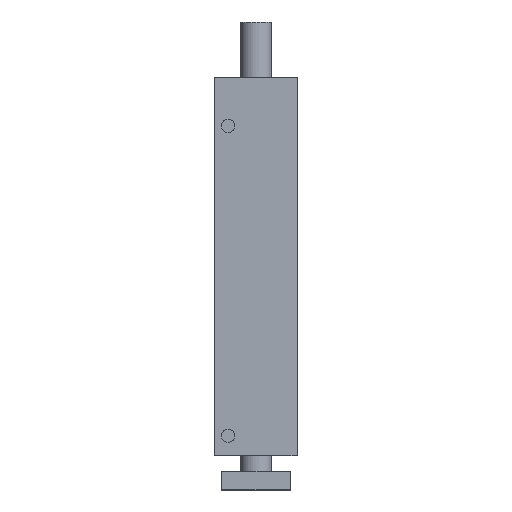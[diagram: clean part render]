
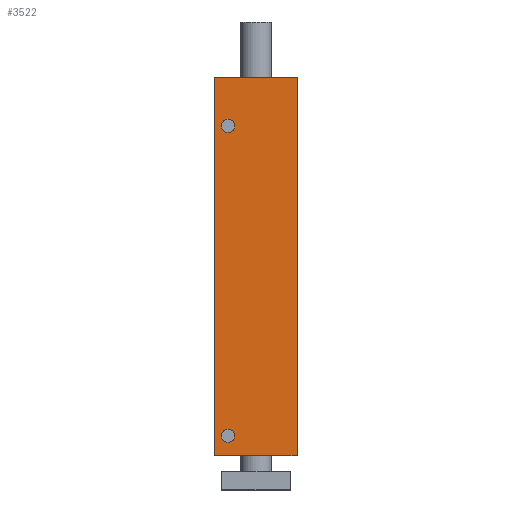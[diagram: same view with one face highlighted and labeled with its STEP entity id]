
A CAD part, front view. The second image highlights one B-rep face of the part: STEP entity #3522.
In plain terms, the highlighted planar face has unit normal (0, -1, 0).
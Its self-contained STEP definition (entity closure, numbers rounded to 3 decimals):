
#255=CARTESIAN_POINT('',(-27.0,-60.0,0.0));
#256=VERTEX_POINT('',#255);
#263=CARTESIAN_POINT('',(-27.0,-60.0,244.0));
#264=VERTEX_POINT('',#263);
#265=CARTESIAN_POINT('',(-27.0,-60.0,0.0));
#266=DIRECTION('',(0.0,0.0,1.0));
#267=VECTOR('',#266,244.0);
#268=LINE('',#265,#267);
#269=EDGE_CURVE('',#256,#264,#268,.T.);
#971=CARTESIAN_POINT('',(26.5,-60.0,0.0));
#972=VERTEX_POINT('',#971);
#979=CARTESIAN_POINT('',(-27.0,-60.0,0.0));
#980=DIRECTION('',(1.0,0.0,0.0));
#981=VECTOR('',#980,53.5);
#982=LINE('',#979,#981);
#983=EDGE_CURVE('',#256,#972,#982,.T.);
#2359=CARTESIAN_POINT('',(-13.717,-60.0,213.0));
#2360=VERTEX_POINT('',#2359);
#2361=CARTESIAN_POINT('',(-18.0,-60.0,213.0));
#2362=DIRECTION('',(0.0,1.0,0.0));
#2363=DIRECTION('',(1.0,0.0,0.0));
#2364=AXIS2_PLACEMENT_3D('',#2361,#2362,#2363);
#2365=CIRCLE('',#2364,4.283);
#2366=EDGE_CURVE('',#2360,#2360,#2365,.T.);
#2396=CARTESIAN_POINT('',(-13.717,-60.0,13.));
#2397=VERTEX_POINT('',#2396);
#2398=CARTESIAN_POINT('',(-18.0,-60.0,13.));
#2399=DIRECTION('',(0.0,1.0,0.0));
#2400=DIRECTION('',(1.0,0.0,0.0));
#2401=AXIS2_PLACEMENT_3D('',#2398,#2399,#2400);
#2402=CIRCLE('',#2401,4.283);
#2403=EDGE_CURVE('',#2397,#2397,#2402,.T.);
#3481=CARTESIAN_POINT('',(26.5,-60.0,244.0));
#3482=VERTEX_POINT('',#3481);
#3489=CARTESIAN_POINT('',(26.5,-60.0,0.0));
#3490=DIRECTION('',(0.0,0.0,1.0));
#3491=VECTOR('',#3490,244.0);
#3492=LINE('',#3489,#3491);
#3493=EDGE_CURVE('',#972,#3482,#3492,.T.);
#3500=CARTESIAN_POINT('',(26.5,-60.0,0.0));
#3501=DIRECTION('',(0.0,-1.0,0.0));
#3502=DIRECTION('',(0.0,0.0,-1.0));
#3503=AXIS2_PLACEMENT_3D('',#3500,#3501,#3502);
#3504=PLANE('',#3503);
#3505=CARTESIAN_POINT('',(26.5,-60.0,244.0));
#3506=DIRECTION('',(-1.0,0.0,0.0));
#3507=VECTOR('',#3506,53.5);
#3508=LINE('',#3505,#3507);
#3509=EDGE_CURVE('',#3482,#264,#3508,.T.);
#3510=ORIENTED_EDGE('',*,*,#3509,.T.);
#3511=ORIENTED_EDGE('',*,*,#269,.F.);
#3512=ORIENTED_EDGE('',*,*,#983,.T.);
#3513=ORIENTED_EDGE('',*,*,#3493,.T.);
#3514=EDGE_LOOP('',(#3510,#3511,#3512,#3513));
#3515=FACE_OUTER_BOUND('',#3514,.T.);
#3516=ORIENTED_EDGE('',*,*,#2366,.T.);
#3517=EDGE_LOOP('',(#3516));
#3518=FACE_BOUND('',#3517,.T.);
#3519=ORIENTED_EDGE('',*,*,#2403,.T.);
#3520=EDGE_LOOP('',(#3519));
#3521=FACE_BOUND('',#3520,.T.);
#3522=ADVANCED_FACE('',(#3515,#3518,#3521),#3504,.T.);
